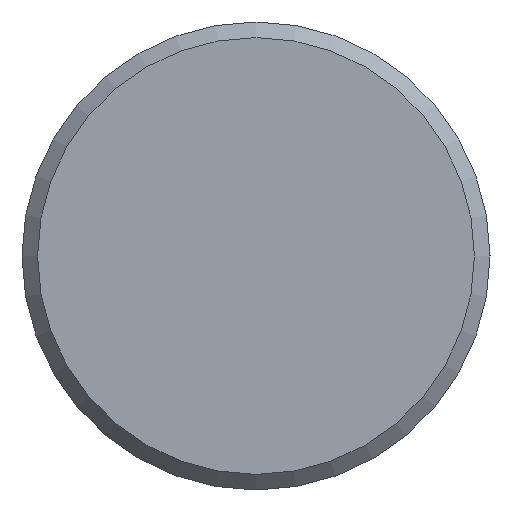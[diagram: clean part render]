
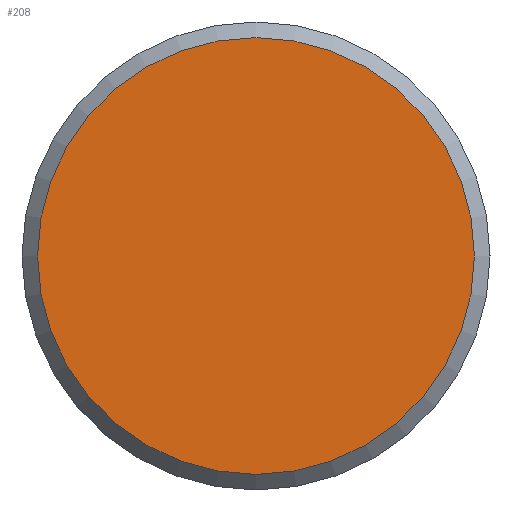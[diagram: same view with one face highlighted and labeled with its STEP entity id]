
A CAD part, left-side view. The second image highlights one B-rep face of the part: STEP entity #208.
In plain terms, the highlighted planar face has unit normal (-1, 0, 0).
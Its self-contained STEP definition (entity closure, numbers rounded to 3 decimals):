
#22=PLANE('',#258);
#37=FACE_OUTER_BOUND('',#53,.T.);
#53=EDGE_LOOP('',(#171));
#93=CIRCLE('',#259,14.);
#110=VERTEX_POINT('',#385);
#132=EDGE_CURVE('',#110,#110,#93,.T.);
#171=ORIENTED_EDGE('',*,*,#132,.F.);
#208=ADVANCED_FACE('',(#37),#22,.T.);
#258=AXIS2_PLACEMENT_3D('',#384,#316,#317);
#259=AXIS2_PLACEMENT_3D('',#386,#318,#319);
#316=DIRECTION('center_axis',(-1.,0.,0.));
#317=DIRECTION('ref_axis',(0.,0.,1.));
#318=DIRECTION('center_axis',(1.,0.,0.));
#319=DIRECTION('ref_axis',(0.,0.,-1.));
#384=CARTESIAN_POINT('Origin',(-41.,-14.,0.));
#385=CARTESIAN_POINT('',(-41.,14.,0.));
#386=CARTESIAN_POINT('Origin',(-41.,0.,0.));
